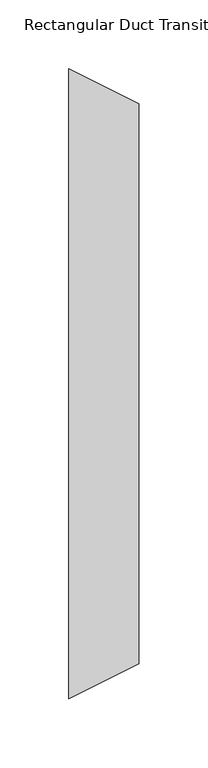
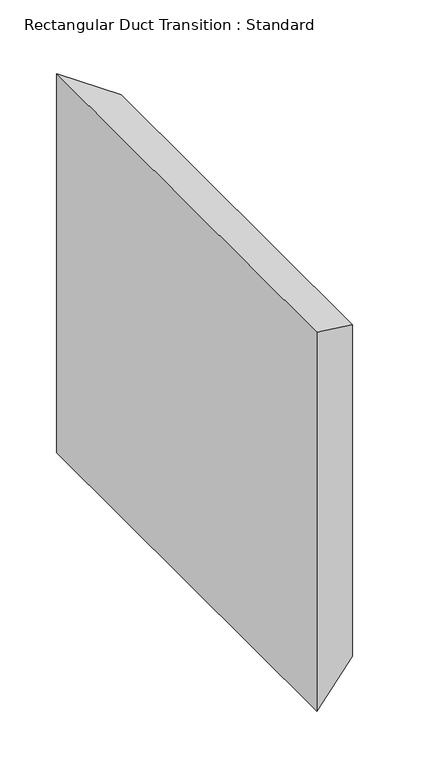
"""IFC4 building model written with IfcOpenShell, lengths in millimetres: duct fitting geometry, Rectangular Duct Transition : Standard."""

from ifc_helpers import new_model, si_unit, origin, place, context, project, spatial, faceted_brep, source, transform, mapped, element, save


def rectangular_duct_transition_standard_ec693d8a(model_context):
    return source(origin(), model_context, "Body", "Brep", [
        faceted_brep([(50.8, -203.2, 177.8), (50.8, -203.2, -177.8), (50.8, 203.2, -177.8), (50.8, 203.2, 177.8), (0.0, -228.6, 203.2), (0.0, 228.6, 203.2), (0.0, 228.6, -203.2), (0.0, -228.6, -203.2)], [[[0, 1, 2, 3]], [[4, 5, 6, 7]], [[4, 7, 1, 0]], [[7, 6, 2, 1]], [[6, 5, 3, 2]], [[5, 4, 0, 3]]]),
        faceted_brep([(50.8, -203.2, 177.8), (50.8, -203.2, -177.8), (50.8, 203.2, -177.8), (50.8, 203.2, 177.8), (0.0, -228.6, 203.2), (0.0, 228.6, 203.2), (0.0, 228.6, -203.2), (0.0, -228.6, -203.2)], [[[0, 1, 2, 3]], [[4, 5, 6, 7]], [[4, 7, 1, 0]], [[7, 6, 2, 1]], [[6, 5, 3, 2]], [[5, 4, 0, 3]]]),
        faceted_brep([(50.8, -203.2, 177.8), (50.8, -203.2, -177.8), (50.8, 203.2, -177.8), (50.8, 203.2, 177.8), (0.0, -228.6, 203.2), (0.0, 228.6, 203.2), (0.0, 228.6, -203.2), (0.0, -228.6, -203.2)], [[[0, 1, 2, 3]], [[4, 5, 6, 7]], [[4, 7, 1, 0]], [[7, 6, 2, 1]], [[6, 5, 3, 2]], [[5, 4, 0, 3]]]),
    ])


if __name__ == "__main__":
    model = new_model("IFC4")
    model_context = context("Model", 3, world=origin())
    ifc_project = project(units=[si_unit("LENGTHUNIT", "METRE", prefix="MILLI")], contexts=[model_context])
    site = spatial("IfcSite", under=ifc_project)
    building = spatial("IfcBuilding", under=site)
    placement = place(None, origin())
    rectangular_duct_transition_standard_shape = rectangular_duct_transition_standard_ec693d8a(model_context)
    element("IfcDuctFitting", 1, ObjectType="Rectangular Duct Transition : Standard", at=placement, inside=building, context=model_context, shape_type="MappedRepresentation", body=[
        mapped(rectangular_duct_transition_standard_shape, transform((0.0, 0.0, 0.0), x_axis=(1.0, 0.0, 0.0), y_axis=(0.0, 1.0, 0.0), z_axis=(0.0, 0.0, 1.0))),
    ])
    save(model, "model.ifc")
